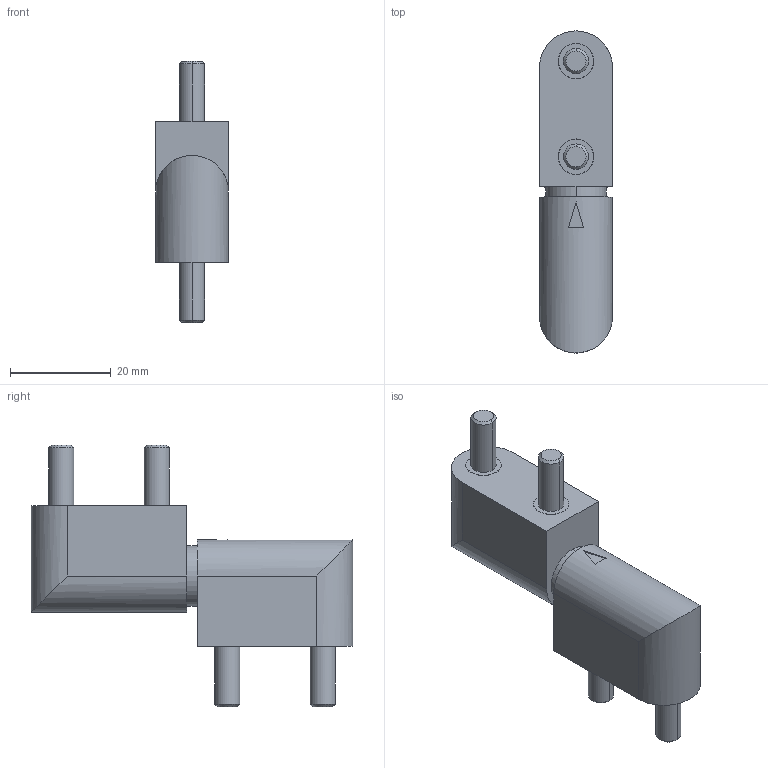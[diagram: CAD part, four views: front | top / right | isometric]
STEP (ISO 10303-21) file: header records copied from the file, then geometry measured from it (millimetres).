
FILE_DESCRIPTION (( 'STEP AP214' ), '1' );
FILE_NAME ('160-28-64-B.step', '2023-03-13T10:32:54', ( '' ), ( '' ), 'SwSTEP 2.0', 'SolidWorks 2022', '' );
FILE_SCHEMA (( 'AUTOMOTIVE_DESIGN' ));
Length unit declared in the file: millimetre
Products named in the file (3): 160-28-64-B; WB160_Flügel^WB160_Schraube; WB160_Flügel^WB160_Stift+Schraube
Assembly tree (2 placements, depth 2):
  160-28-64-B
    WB160_Flügel^WB160_Stift+Schraube
    WB160_Flügel^WB160_Schraube
Bounding box: 14.5 x 64 x 52 mm (x, y, z)
Volume: 18051.9 mm3; surface area: 6853 mm2
Topology: 2 solids, 2 shells, 73 faces, 147 edges, 94 vertices
Faces by surface type: cylinder 34, plane 27, cone 12
Entity records: 2296 total; most frequent: DIRECTION 376, CARTESIAN_POINT 331, ORIENTED_EDGE 294, AXIS2_PLACEMENT_3D 155, EDGE_CURVE 147, VERTEX_POINT 94, EDGE_LOOP 89, CIRCLE 77
